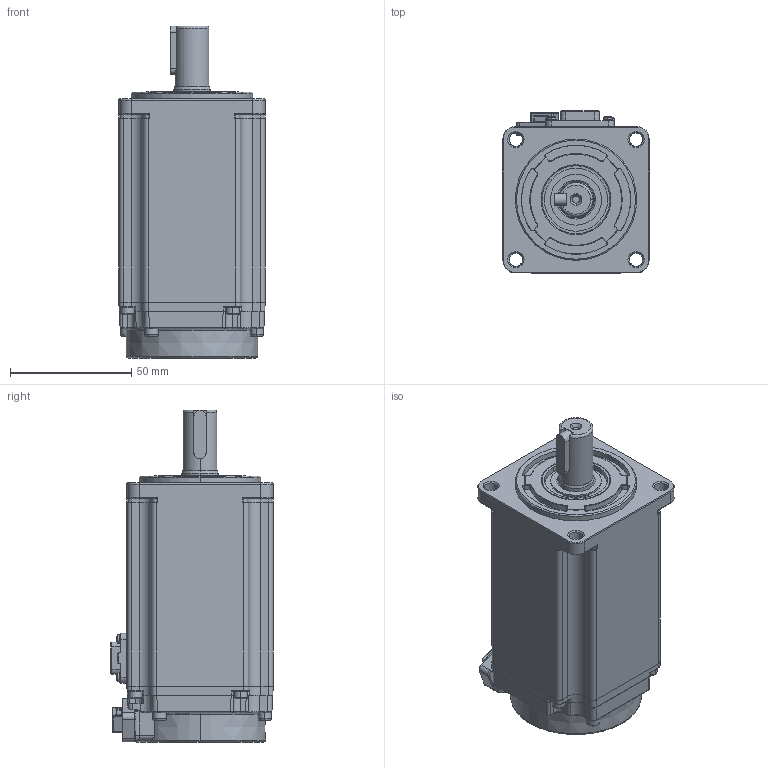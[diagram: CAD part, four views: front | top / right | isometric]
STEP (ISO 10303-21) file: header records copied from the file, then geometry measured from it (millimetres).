
FILE_DESCRIPTION (( 'STEP AP203' ), '1' );
FILE_NAME ('G3系列60ST-600W电机三维图-三竹插拔头.STEP', '2023-09-27T05:29:26', ( '微软用户' ), ( '微软中国' ), 'SwSTEP 2.0', 'SolidWorks 2016', '' );
FILE_SCHEMA (( 'CONFIG_CONTROL_DESIGN' ));
Products named in the file (1): G3系列60ST-600W电机三维图-三竹插拔头
Bounding box: 60.2 x 66.8 x 136.8 mm (x, y, z)
Surface area: 82100.8 mm2 (no closed solid volume)
Topology: 0 solids, 20 shells, 3404 faces, 8809 edges, 5585 vertices
Faces by surface type: plane 1837, cylinder 710, bspline 413, cone 338, torus 98, sphere 8
Entity records: 114229 total; most frequent: CARTESIAN_POINT 33165, ORIENTED_EDGE 17548, DIRECTION 15935, EDGE_CURVE 8788, VERTEX_POINT 5585, LINE 5459, VECTOR 5459, AXIS2_PLACEMENT_3D 5238
